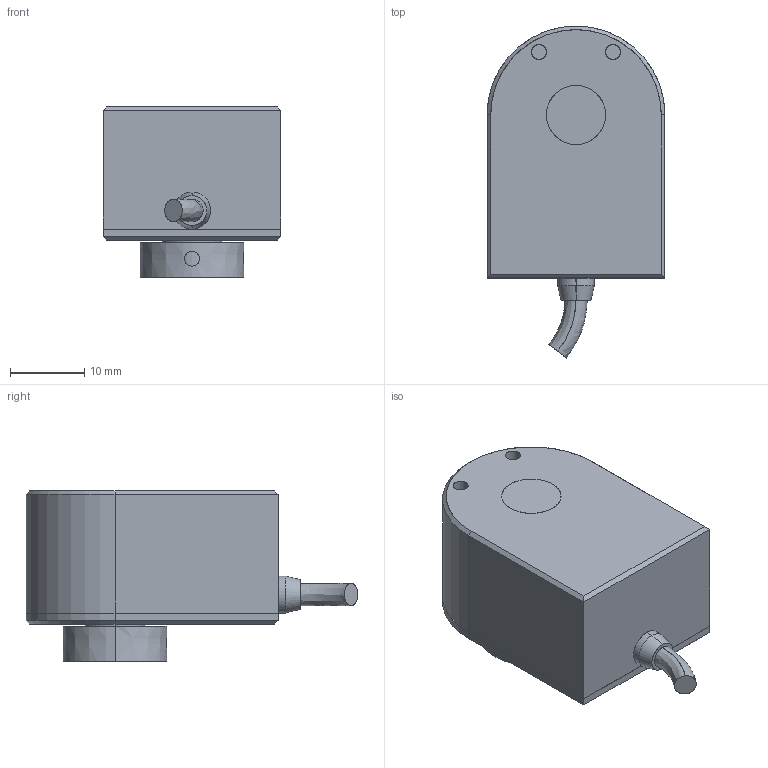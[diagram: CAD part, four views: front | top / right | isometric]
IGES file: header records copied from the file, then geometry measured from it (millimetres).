
Start section: SolidWorks IGES file using analytic representation for surfaces
Bounding box: 24 x 44.77 x 23 mm (x, y, z)
Surface area: 6518.3 mm2 (no closed solid volume)
Topology: 0 solids, 0 shells, 52 faces, 1018 edges, 1017 vertices
Faces by surface type: bspline 26, revolution 26
